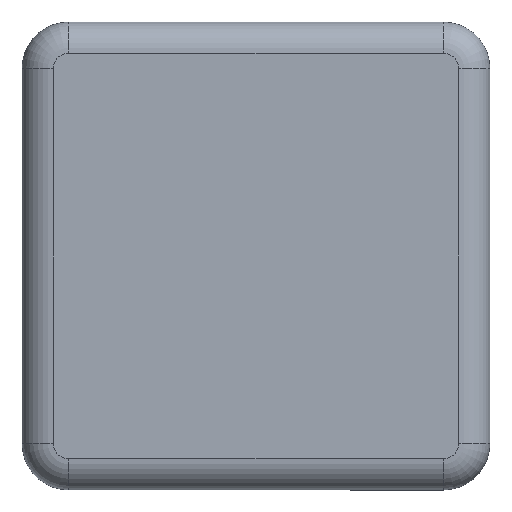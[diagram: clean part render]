
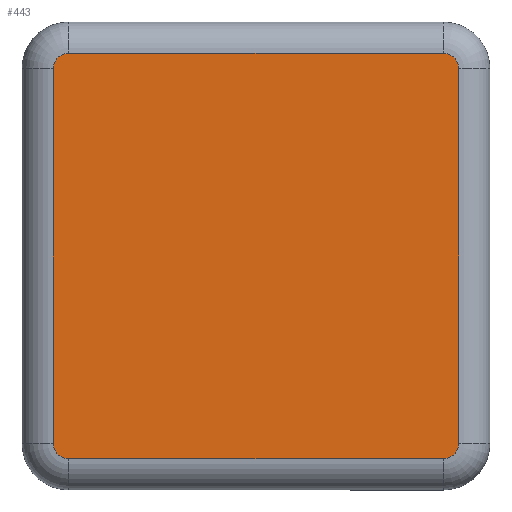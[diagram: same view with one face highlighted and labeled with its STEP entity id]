
A CAD part, front view. The second image highlights one B-rep face of the part: STEP entity #443.
In plain terms, the highlighted planar face has unit normal (0, -1, 0).
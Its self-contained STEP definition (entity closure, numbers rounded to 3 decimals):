
#10 = ORIENTED_EDGE ( 'NONE', *, *, #848, .T. ) ;
#20 = VERTEX_POINT ( 'NONE', #1339 ) ;
#43 = DIRECTION ( 'NONE',  ( 0., -1., 0. ) ) ;
#111 = FACE_OUTER_BOUND ( 'NONE', #813, .T. ) ;
#115 = CIRCLE ( 'NONE', #753, 1. ) ;
#130 = CARTESIAN_POINT ( 'NONE',  ( 13., -4., -12. ) ) ;
#149 = AXIS2_PLACEMENT_3D ( 'NONE', #856, #43, #998 ) ;
#176 = VERTEX_POINT ( 'NONE', #1074 ) ;
#186 = VECTOR ( 'NONE', #662, 1000. ) ;
#193 = AXIS2_PLACEMENT_3D ( 'NONE', #328, #1243, #479 ) ;
#194 = VERTEX_POINT ( 'NONE', #130 ) ;
#211 = CIRCLE ( 'NONE', #193, 1. ) ;
#268 = EDGE_CURVE ( 'NONE', #756, #1040, #465, .T. ) ;
#274 = CARTESIAN_POINT ( 'NONE',  ( -13., -4., 12. ) ) ;
#283 = AXIS2_PLACEMENT_3D ( 'NONE', #1195, #412, #1301 ) ;
#290 = VECTOR ( 'NONE', #1327, 1000. ) ;
#309 = EDGE_CURVE ( 'NONE', #1040, #20, #211, .T. ) ;
#328 = CARTESIAN_POINT ( 'NONE',  ( -12., -4., -12. ) ) ;
#330 = CARTESIAN_POINT ( 'NONE',  ( -13., -4., -12. ) ) ;
#352 = CARTESIAN_POINT ( 'NONE',  ( -12., -4., 13. ) ) ;
#403 = EDGE_CURVE ( 'NONE', #176, #194, #115, .T. ) ;
#412 = DIRECTION ( 'NONE',  ( 0., -1., 0. ) ) ;
#417 = CARTESIAN_POINT ( 'NONE',  ( 12., -4., -12. ) ) ;
#424 = PLANE ( 'NONE',  #1245 ) ;
#425 = DIRECTION ( 'NONE',  ( 1., 0., 0. ) ) ;
#426 = ORIENTED_EDGE ( 'NONE', *, *, #1546, .T. ) ;
#443 = ADVANCED_FACE ( 'NONE', ( #111 ), #424, .F. ) ;
#460 = VECTOR ( 'NONE', #1435, 1000. ) ;
#465 = LINE ( 'NONE', #330, #290 ) ;
#477 = EDGE_CURVE ( 'NONE', #194, #1539, #549, .T. ) ;
#479 = DIRECTION ( 'NONE',  ( 0., 0., 1. ) ) ;
#531 = CIRCLE ( 'NONE', #149, 1. ) ;
#549 = LINE ( 'NONE', #799, #186 ) ;
#557 = DIRECTION ( 'NONE',  ( 0., 0., 1. ) ) ;
#565 = DIRECTION ( 'NONE',  ( 0., 1., 0. ) ) ;
#588 = ORIENTED_EDGE ( 'NONE', *, *, #1409, .T. ) ;
#604 = ORIENTED_EDGE ( 'NONE', *, *, #477, .T. ) ;
#613 = LINE ( 'NONE', #1338, #460 ) ;
#662 = DIRECTION ( 'NONE',  ( 0., 0., 1. ) ) ;
#753 = AXIS2_PLACEMENT_3D ( 'NONE', #417, #1305, #557 ) ;
#756 = VERTEX_POINT ( 'NONE', #274 ) ;
#777 = ORIENTED_EDGE ( 'NONE', *, *, #1485, .T. ) ;
#799 = CARTESIAN_POINT ( 'NONE',  ( 13., -4., 12. ) ) ;
#813 = EDGE_LOOP ( 'NONE', ( #1166, #997, #426, #1155, #604, #10, #588, #777 ) ) ;
#848 = EDGE_CURVE ( 'NONE', #1539, #1478, #531, .T. ) ;
#856 = CARTESIAN_POINT ( 'NONE',  ( 12., -4., 12. ) ) ;
#926 = CIRCLE ( 'NONE', #283, 1. ) ;
#997 = ORIENTED_EDGE ( 'NONE', *, *, #309, .T. ) ;
#998 = DIRECTION ( 'NONE',  ( 0., 0., 1. ) ) ;
#1040 = VERTEX_POINT ( 'NONE', #1150 ) ;
#1074 = CARTESIAN_POINT ( 'NONE',  ( 12., -4., -13. ) ) ;
#1099 = CARTESIAN_POINT ( 'NONE',  ( 12., -4., -13. ) ) ;
#1150 = CARTESIAN_POINT ( 'NONE',  ( -13., -4., -12. ) ) ;
#1155 = ORIENTED_EDGE ( 'NONE', *, *, #403, .T. ) ;
#1166 = ORIENTED_EDGE ( 'NONE', *, *, #268, .T. ) ;
#1182 = VERTEX_POINT ( 'NONE', #352 ) ;
#1195 = CARTESIAN_POINT ( 'NONE',  ( -12., -4., 12. ) ) ;
#1201 = CARTESIAN_POINT ( 'NONE',  ( 0., -4., 0. ) ) ;
#1243 = DIRECTION ( 'NONE',  ( 0., -1., 0. ) ) ;
#1245 = AXIS2_PLACEMENT_3D ( 'NONE', #1201, #565, #1412 ) ;
#1301 = DIRECTION ( 'NONE',  ( 0., 0., 1. ) ) ;
#1305 = DIRECTION ( 'NONE',  ( 0., -1., 0. ) ) ;
#1327 = DIRECTION ( 'NONE',  ( 0., 0., -1. ) ) ;
#1338 = CARTESIAN_POINT ( 'NONE',  ( -12., -4., 13. ) ) ;
#1339 = CARTESIAN_POINT ( 'NONE',  ( -12., -4., -13. ) ) ;
#1409 = EDGE_CURVE ( 'NONE', #1478, #1182, #613, .T. ) ;
#1412 = DIRECTION ( 'NONE',  ( 0., 0., 1. ) ) ;
#1435 = DIRECTION ( 'NONE',  ( -1., 0., 0. ) ) ;
#1478 = VERTEX_POINT ( 'NONE', #1564 ) ;
#1485 = EDGE_CURVE ( 'NONE', #1182, #756, #926, .T. ) ;
#1489 = LINE ( 'NONE', #1099, #1556 ) ;
#1507 = CARTESIAN_POINT ( 'NONE',  ( 13., -4., 12. ) ) ;
#1539 = VERTEX_POINT ( 'NONE', #1507 ) ;
#1546 = EDGE_CURVE ( 'NONE', #20, #176, #1489, .T. ) ;
#1556 = VECTOR ( 'NONE', #425, 1000. ) ;
#1564 = CARTESIAN_POINT ( 'NONE',  ( 12., -4., 13. ) ) ;
